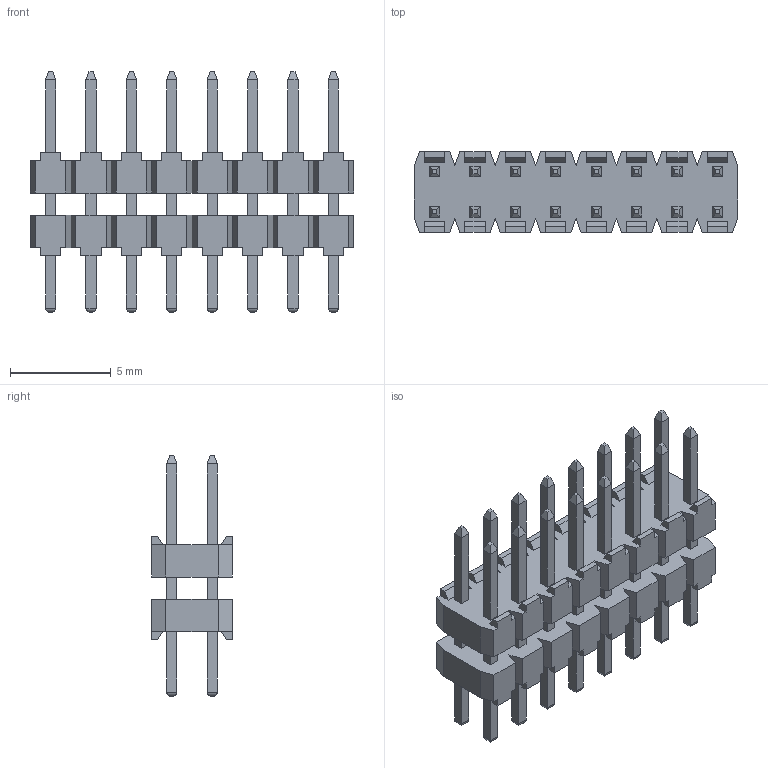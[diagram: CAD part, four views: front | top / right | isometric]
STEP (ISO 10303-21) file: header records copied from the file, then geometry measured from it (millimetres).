
FILE_DESCRIPTION(/* description */ (''),/* implementation_level */ '2;1');
FILE_NAME(/* name */ '951416-8011106-AR',/* time_stamp */ '2007-03-14T08:23:07+01:00',/* author */ (''),/* organization */ (''),/* preprocessor_version */ 'ST-DEVELOPER v9',/* originating_system */ 'UGS - NX 4.0',/* authorisation */ '');
FILE_SCHEMA (('AUTOMOTIVE_DESIGN { 1 0 10303 214 1 1 1 1 }'));
Length unit declared in the file: millimetre
Products named in the file (1): 951416-8011106-AR
Bounding box: 16 x 4 x 11.9 mm (x, y, z)
Volume: 235.1 mm3; surface area: 705.8 mm2
Topology: 1 solids, 1 shells, 584 faces, 1516 edges, 968 vertices
Faces by surface type: plane 520, cylinder 64
Entity records: 17444 total; most frequent: CARTESIAN_POINT 3069, ORIENTED_EDGE 3032, DIRECTION 2750, EDGE_CURVE 1516, LINE 1452, VECTOR 1452, VERTEX_POINT 968, AXIS2_PLACEMENT_3D 649
